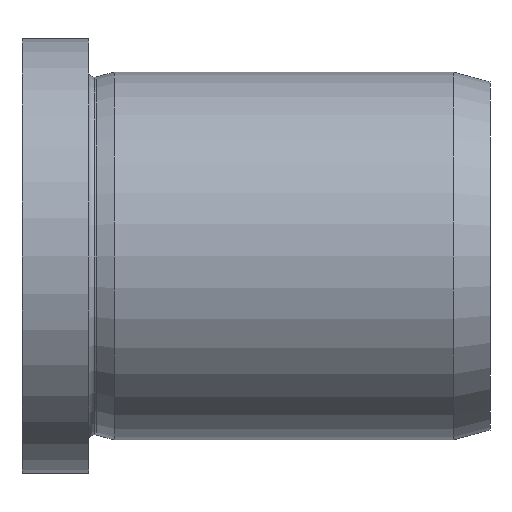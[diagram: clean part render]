
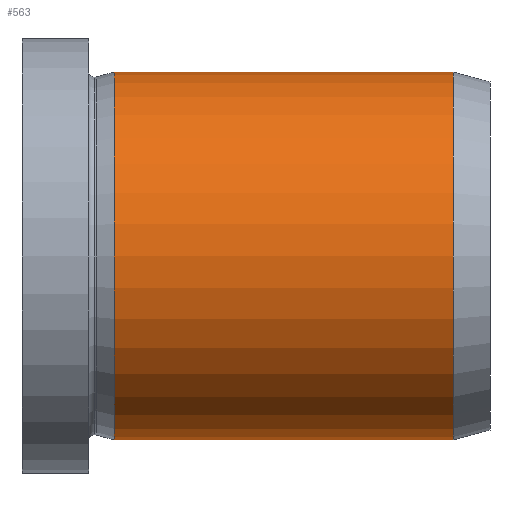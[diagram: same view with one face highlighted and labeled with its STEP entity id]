
A CAD part, left-side view. The second image highlights one B-rep face of the part: STEP entity #563.
In plain terms, the highlighted cylindrical face has radius 11 mm (diameter 22 mm), a partial arc.
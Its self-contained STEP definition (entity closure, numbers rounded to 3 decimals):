
#40 = CARTESIAN_POINT ( 'NONE',  ( 0., 22.478, 0. ) ) ;
#42 = AXIS2_PLACEMENT_3D ( 'NONE', #299, #445, #451 ) ;
#48 = DIRECTION ( 'NONE',  ( 0., 0., -1. ) ) ;
#50 = LINE ( 'NONE', #348, #431 ) ;
#73 = ORIENTED_EDGE ( 'NONE', *, *, #149, .T. ) ;
#117 = VERTEX_POINT ( 'NONE', #504 ) ;
#129 = VECTOR ( 'NONE', #411, 1000. ) ;
#149 = EDGE_CURVE ( 'NONE', #117, #658, #50, .T. ) ;
#161 = EDGE_LOOP ( 'NONE', ( #458, #209, #73, #612 ) ) ;
#171 = CIRCLE ( 'NONE', #250, 11. ) ;
#193 = CARTESIAN_POINT ( 'NONE',  ( 0., 2.2, 11. ) ) ;
#201 = EDGE_CURVE ( 'NONE', #560, #658, #472, .T. ) ;
#209 = ORIENTED_EDGE ( 'NONE', *, *, #530, .T. ) ;
#224 = CARTESIAN_POINT ( 'NONE',  ( 0., 0., 11. ) ) ;
#243 = CARTESIAN_POINT ( 'NONE',  ( 0., 22.478, 11. ) ) ;
#250 = AXIS2_PLACEMENT_3D ( 'NONE', #40, #442, #48 ) ;
#261 = CARTESIAN_POINT ( 'NONE',  ( 0., 0., 0. ) ) ;
#269 = EDGE_CURVE ( 'NONE', #559, #560, #576, .T. ) ;
#293 = DIRECTION ( 'NONE',  ( 0., -1., 0. ) ) ;
#299 = CARTESIAN_POINT ( 'NONE',  ( 0., 2.2, 0. ) ) ;
#348 = CARTESIAN_POINT ( 'NONE',  ( 0., 0., -11. ) ) ;
#389 = CYLINDRICAL_SURFACE ( 'NONE', #523, 11. ) ;
#411 = DIRECTION ( 'NONE',  ( 0., -1., 0. ) ) ;
#431 = VECTOR ( 'NONE', #293, 1000. ) ;
#442 = DIRECTION ( 'NONE',  ( 0., -1., 0. ) ) ;
#445 = DIRECTION ( 'NONE',  ( 0., -1., 0. ) ) ;
#451 = DIRECTION ( 'NONE',  ( 0., 0., -1. ) ) ;
#453 = DIRECTION ( 'NONE',  ( 0., -1., 0. ) ) ;
#458 = ORIENTED_EDGE ( 'NONE', *, *, #269, .F. ) ;
#472 = CIRCLE ( 'NONE', #42, 11. ) ;
#504 = CARTESIAN_POINT ( 'NONE',  ( 0., 22.478, -11. ) ) ;
#523 = AXIS2_PLACEMENT_3D ( 'NONE', #261, #453, #565 ) ;
#530 = EDGE_CURVE ( 'NONE', #559, #117, #171, .T. ) ;
#559 = VERTEX_POINT ( 'NONE', #243 ) ;
#560 = VERTEX_POINT ( 'NONE', #193 ) ;
#561 = CARTESIAN_POINT ( 'NONE',  ( 0., 2.2, -11. ) ) ;
#563 = ADVANCED_FACE ( 'NONE', ( #652 ), #389, .T. ) ;
#565 = DIRECTION ( 'NONE',  ( 0., 0., -1. ) ) ;
#576 = LINE ( 'NONE', #224, #129 ) ;
#612 = ORIENTED_EDGE ( 'NONE', *, *, #201, .F. ) ;
#652 = FACE_OUTER_BOUND ( 'NONE', #161, .T. ) ;
#658 = VERTEX_POINT ( 'NONE', #561 ) ;
